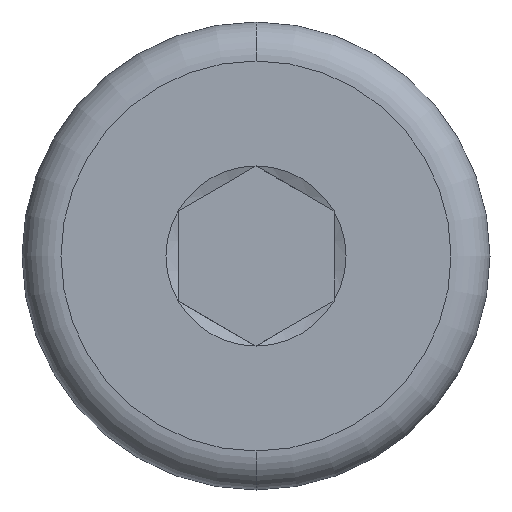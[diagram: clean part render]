
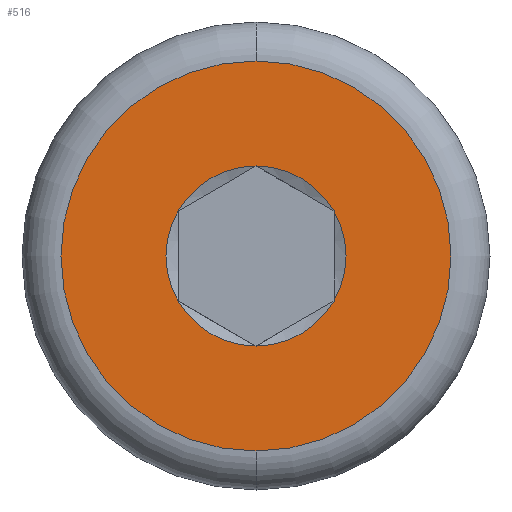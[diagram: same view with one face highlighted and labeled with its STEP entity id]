
A CAD part, left-side view. The second image highlights one B-rep face of the part: STEP entity #516.
In plain terms, the highlighted planar face has unit normal (-1, 0, 0).
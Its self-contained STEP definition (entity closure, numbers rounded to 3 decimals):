
#3 = EDGE_CURVE ( 'NONE', #249, #41, #103, .T. ) ;
#15 = DIRECTION ( 'NONE',  ( -1., 0., 0. ) ) ;
#21 = FACE_BOUND ( 'NONE', #359, .T. ) ;
#26 = EDGE_CURVE ( 'NONE', #41, #557, #433, .T. ) ;
#33 = DIRECTION ( 'NONE',  ( 1., 0., 0. ) ) ;
#41 = VERTEX_POINT ( 'NONE', #181 ) ;
#44 = AXIS2_PLACEMENT_3D ( 'NONE', #454, #659, #85 ) ;
#85 = DIRECTION ( 'NONE',  ( 0., 0., -1. ) ) ;
#93 = VERTEX_POINT ( 'NONE', #427 ) ;
#96 = AXIS2_PLACEMENT_3D ( 'NONE', #638, #534, #183 ) ;
#103 = CIRCLE ( 'NONE', #116, 1.155 ) ;
#104 = AXIS2_PLACEMENT_3D ( 'NONE', #610, #154, #357 ) ;
#105 = DIRECTION ( 'NONE',  ( 1., 0., 0. ) ) ;
#116 = AXIS2_PLACEMENT_3D ( 'NONE', #438, #430, #634 ) ;
#154 = DIRECTION ( 'NONE',  ( 1., 0., 0. ) ) ;
#174 = EDGE_LOOP ( 'NONE', ( #415, #216 ) ) ;
#181 = CARTESIAN_POINT ( 'NONE',  ( 0., -1., -0.577 ) ) ;
#183 = DIRECTION ( 'NONE',  ( 0., 0., -1. ) ) ;
#189 = ORIENTED_EDGE ( 'NONE', *, *, #3, .T. ) ;
#216 = ORIENTED_EDGE ( 'NONE', *, *, #414, .F. ) ;
#226 = CIRCLE ( 'NONE', #590, 1.155 ) ;
#229 = EDGE_CURVE ( 'NONE', #375, #261, #655, .T. ) ;
#232 = AXIS2_PLACEMENT_3D ( 'NONE', #408, #105, #317 ) ;
#235 = EDGE_CURVE ( 'NONE', #261, #249, #396, .T. ) ;
#239 = PLANE ( 'NONE',  #449 ) ;
#240 = AXIS2_PLACEMENT_3D ( 'NONE', #241, #330, #642 ) ;
#241 = CARTESIAN_POINT ( 'NONE',  ( 0., 0., 0. ) ) ;
#247 = CARTESIAN_POINT ( 'NONE',  ( 0., 0., -1.155 ) ) ;
#249 = VERTEX_POINT ( 'NONE', #468 ) ;
#259 = DIRECTION ( 'NONE',  ( 0., 0., -1. ) ) ;
#261 = VERTEX_POINT ( 'NONE', #475 ) ;
#262 = CARTESIAN_POINT ( 'NONE',  ( 0., 0., 0. ) ) ;
#265 = ORIENTED_EDGE ( 'NONE', *, *, #235, .T. ) ;
#269 = CIRCLE ( 'NONE', #637, 1.155 ) ;
#306 = VERTEX_POINT ( 'NONE', #527 ) ;
#317 = DIRECTION ( 'NONE',  ( 0., 0., -1. ) ) ;
#330 = DIRECTION ( 'NONE',  ( 1., 0., 0. ) ) ;
#336 = CARTESIAN_POINT ( 'NONE',  ( 0., 1., 0.577 ) ) ;
#349 = CIRCLE ( 'NONE', #44, 2.5 ) ;
#357 = DIRECTION ( 'NONE',  ( 0., 0., -1. ) ) ;
#359 = EDGE_LOOP ( 'NONE', ( #447, #265, #189, #525, #472, #467 ) ) ;
#375 = VERTEX_POINT ( 'NONE', #336 ) ;
#395 = DIRECTION ( 'NONE',  ( 0., 0., 1. ) ) ;
#396 = CIRCLE ( 'NONE', #104, 1.155 ) ;
#408 = CARTESIAN_POINT ( 'NONE',  ( 0., 0., 0. ) ) ;
#412 = VERTEX_POINT ( 'NONE', #429 ) ;
#414 = EDGE_CURVE ( 'NONE', #93, #306, #624, .T. ) ;
#415 = ORIENTED_EDGE ( 'NONE', *, *, #668, .F. ) ;
#427 = CARTESIAN_POINT ( 'NONE',  ( 0., 0., 2.5 ) ) ;
#429 = CARTESIAN_POINT ( 'NONE',  ( 0., 1., -0.577 ) ) ;
#430 = DIRECTION ( 'NONE',  ( 1., 0., 0. ) ) ;
#433 = CIRCLE ( 'NONE', #240, 1.155 ) ;
#438 = CARTESIAN_POINT ( 'NONE',  ( 0., 0., 0. ) ) ;
#447 = ORIENTED_EDGE ( 'NONE', *, *, #229, .T. ) ;
#449 = AXIS2_PLACEMENT_3D ( 'NONE', #656, #15, #395 ) ;
#454 = CARTESIAN_POINT ( 'NONE',  ( 0., 0., 0. ) ) ;
#467 = ORIENTED_EDGE ( 'NONE', *, *, #577, .T. ) ;
#468 = CARTESIAN_POINT ( 'NONE',  ( 0., -1., 0.577 ) ) ;
#472 = ORIENTED_EDGE ( 'NONE', *, *, #657, .T. ) ;
#475 = CARTESIAN_POINT ( 'NONE',  ( 0., 0., 1.155 ) ) ;
#512 = CARTESIAN_POINT ( 'NONE',  ( 0., 0., 0. ) ) ;
#516 = ADVANCED_FACE ( 'NONE', ( #21, #594 ), #239, .T. ) ;
#525 = ORIENTED_EDGE ( 'NONE', *, *, #26, .T. ) ;
#527 = CARTESIAN_POINT ( 'NONE',  ( 0., 0., -2.5 ) ) ;
#534 = DIRECTION ( 'NONE',  ( 1., 0., 0. ) ) ;
#556 = DIRECTION ( 'NONE',  ( 0., 0., -1. ) ) ;
#557 = VERTEX_POINT ( 'NONE', #247 ) ;
#577 = EDGE_CURVE ( 'NONE', #412, #375, #226, .T. ) ;
#590 = AXIS2_PLACEMENT_3D ( 'NONE', #262, #662, #556 ) ;
#594 = FACE_OUTER_BOUND ( 'NONE', #174, .T. ) ;
#610 = CARTESIAN_POINT ( 'NONE',  ( 0., 0., 0. ) ) ;
#624 = CIRCLE ( 'NONE', #96, 2.5 ) ;
#634 = DIRECTION ( 'NONE',  ( 0., 0., -1. ) ) ;
#637 = AXIS2_PLACEMENT_3D ( 'NONE', #512, #33, #259 ) ;
#638 = CARTESIAN_POINT ( 'NONE',  ( 0., 0., 0. ) ) ;
#642 = DIRECTION ( 'NONE',  ( 0., 0., -1. ) ) ;
#655 = CIRCLE ( 'NONE', #232, 1.155 ) ;
#656 = CARTESIAN_POINT ( 'NONE',  ( 0., 0., 0. ) ) ;
#657 = EDGE_CURVE ( 'NONE', #557, #412, #269, .T. ) ;
#659 = DIRECTION ( 'NONE',  ( 1., 0., 0. ) ) ;
#662 = DIRECTION ( 'NONE',  ( 1., 0., 0. ) ) ;
#668 = EDGE_CURVE ( 'NONE', #306, #93, #349, .T. ) ;
